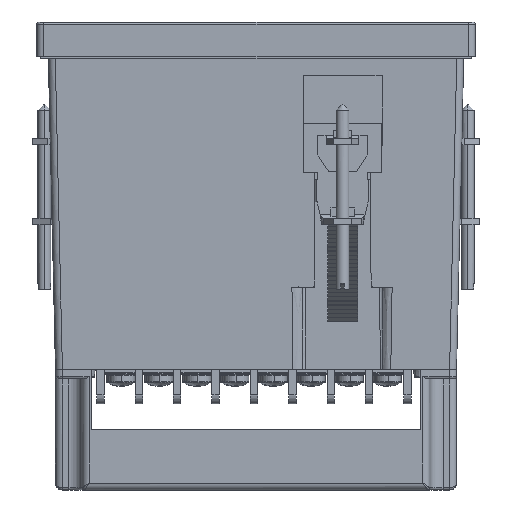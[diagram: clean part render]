
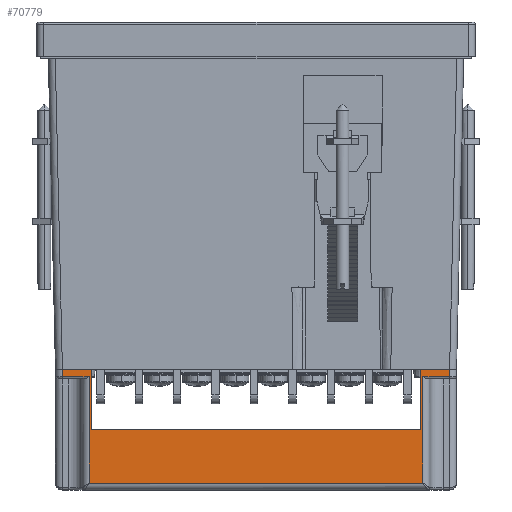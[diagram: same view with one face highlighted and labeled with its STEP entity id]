
A CAD part, front view. The second image highlights one B-rep face of the part: STEP entity #70779.
In plain terms, the highlighted planar face has unit normal (0, -1, 0).
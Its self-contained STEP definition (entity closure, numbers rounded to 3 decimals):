
#3906 = LINE ( 'NONE', #78350, #26117 ) ;
#4967 = VERTEX_POINT ( 'NONE', #93657 ) ;
#5563 = PLANE ( 'NONE',  #76974 ) ;
#5997 = ORIENTED_EDGE ( 'NONE', *, *, #96508, .F. ) ;
#6432 = EDGE_LOOP ( 'NONE', ( #65651, #13958, #8457, #5997, #59889, #43335, #80713, #32470, #53765, #30663, #32777, #38738 ) ) ;
#6841 = DIRECTION ( 'NONE',  ( 1., 0., 0. ) ) ;
#7033 = CARTESIAN_POINT ( 'NONE',  ( -36.15, -43.45, -26.2 ) ) ;
#7709 = CARTESIAN_POINT ( 'NONE',  ( -35.75, -43.45, -13.02 ) ) ;
#8288 = LINE ( 'NONE', #17034, #50861 ) ;
#8457 = ORIENTED_EDGE ( 'NONE', *, *, #73602, .T. ) ;
#9831 = VERTEX_POINT ( 'NONE', #16941 ) ;
#11998 = CARTESIAN_POINT ( 'NONE',  ( -43.45, -43.45, 0. ) ) ;
#12074 = DIRECTION ( 'NONE',  ( 0., 0., 1. ) ) ;
#13344 = EDGE_CURVE ( 'NONE', #30185, #9831, #91136, .T. ) ;
#13958 = ORIENTED_EDGE ( 'NONE', *, *, #13344, .T. ) ;
#14467 = CARTESIAN_POINT ( 'NONE',  ( 35.75, -43.45, -13.02 ) ) ;
#15778 = EDGE_CURVE ( 'NONE', #48974, #68038, #106248, .T. ) ;
#16941 = CARTESIAN_POINT ( 'NONE',  ( 41.95, -43.45, -1.64 ) ) ;
#17034 = CARTESIAN_POINT ( 'NONE',  ( -43.45, -43.45, -1.64 ) ) ;
#22521 = DIRECTION ( 'NONE',  ( 0., 0., -1. ) ) ;
#22651 = LINE ( 'NONE', #14467, #62994 ) ;
#22654 = VECTOR ( 'NONE', #72525, 1000. ) ;
#23580 = DIRECTION ( 'NONE',  ( 0., 0., 1. ) ) ;
#24331 = DIRECTION ( 'NONE',  ( 1., 0., 0. ) ) ;
#24547 = VERTEX_POINT ( 'NONE', #81080 ) ;
#26117 = VECTOR ( 'NONE', #60264, 1000. ) ;
#26307 = DIRECTION ( 'NONE',  ( 0., 0., 1. ) ) ;
#27737 = EDGE_CURVE ( 'NONE', #4967, #30185, #61271, .T. ) ;
#27783 = VECTOR ( 'NONE', #6841, 1000. ) ;
#30185 = VERTEX_POINT ( 'NONE', #59663 ) ;
#30663 = ORIENTED_EDGE ( 'NONE', *, *, #50111, .T. ) ;
#32470 = ORIENTED_EDGE ( 'NONE', *, *, #94733, .F. ) ;
#32518 = CARTESIAN_POINT ( 'NONE',  ( -43.45, -43.45, 0. ) ) ;
#32777 = ORIENTED_EDGE ( 'NONE', *, *, #68590, .T. ) ;
#36346 = EDGE_CURVE ( 'NONE', #24547, #48974, #95293, .T. ) ;
#37912 = CARTESIAN_POINT ( 'NONE',  ( -41.95, -43.45, -1.64 ) ) ;
#38738 = ORIENTED_EDGE ( 'NONE', *, *, #93814, .T. ) ;
#39670 = CARTESIAN_POINT ( 'NONE',  ( -43.45, -43.45, -24.7 ) ) ;
#41849 = VECTOR ( 'NONE', #12074, 1000. ) ;
#43335 = ORIENTED_EDGE ( 'NONE', *, *, #36346, .T. ) ;
#45550 = DIRECTION ( 'NONE',  ( 0., -1., 0. ) ) ;
#46764 = VERTEX_POINT ( 'NONE', #79766 ) ;
#48084 = DIRECTION ( 'NONE',  ( 0., 0., -1. ) ) ;
#48164 = EDGE_CURVE ( 'NONE', #24547, #46764, #22651, .T. ) ;
#48444 = LINE ( 'NONE', #32518, #91504 ) ;
#48974 = VERTEX_POINT ( 'NONE', #90563 ) ;
#50111 = EDGE_CURVE ( 'NONE', #81951, #54836, #8288, .T. ) ;
#50861 = VECTOR ( 'NONE', #67347, 1000. ) ;
#52097 = VECTOR ( 'NONE', #87102, 1000. ) ;
#53692 = CARTESIAN_POINT ( 'NONE',  ( -35.524, -43.45, -13.02 ) ) ;
#53765 = ORIENTED_EDGE ( 'NONE', *, *, #108224, .T. ) ;
#54836 = VERTEX_POINT ( 'NONE', #59855 ) ;
#55770 = VERTEX_POINT ( 'NONE', #103381 ) ;
#58060 = VERTEX_POINT ( 'NONE', #77222 ) ;
#59509 = VECTOR ( 'NONE', #26307, 1000. ) ;
#59663 = CARTESIAN_POINT ( 'NONE',  ( 36.154, -43.45, -1.64 ) ) ;
#59855 = CARTESIAN_POINT ( 'NONE',  ( -36.15, -43.45, -1.64 ) ) ;
#59889 = ORIENTED_EDGE ( 'NONE', *, *, #48164, .F. ) ;
#60264 = DIRECTION ( 'NONE',  ( 0., 0., -1. ) ) ;
#61271 = LINE ( 'NONE', #61816, #41849 ) ;
#61816 = CARTESIAN_POINT ( 'NONE',  ( 36.154, -43.45, -2.14 ) ) ;
#62994 = VECTOR ( 'NONE', #73015, 1000. ) ;
#64830 = LINE ( 'NONE', #39670, #27783 ) ;
#64910 = VECTOR ( 'NONE', #23580, 1000. ) ;
#65651 = ORIENTED_EDGE ( 'NONE', *, *, #27737, .T. ) ;
#67347 = DIRECTION ( 'NONE',  ( 1., 0., 0. ) ) ;
#68038 = VERTEX_POINT ( 'NONE', #90904 ) ;
#68590 = EDGE_CURVE ( 'NONE', #54836, #78244, #72149, .T. ) ;
#70779 = ADVANCED_FACE ( 'NONE', ( #78933 ), #5563, .T. ) ;
#71584 = LINE ( 'NONE', #11998, #100465 ) ;
#72149 = LINE ( 'NONE', #7033, #83795 ) ;
#72525 = DIRECTION ( 'NONE',  ( 1., 0., 0. ) ) ;
#73015 = DIRECTION ( 'NONE',  ( 0., 0., 1. ) ) ;
#73602 = EDGE_CURVE ( 'NONE', #9831, #55770, #99704, .T. ) ;
#76974 = AXIS2_PLACEMENT_3D ( 'NONE', #95900, #45550, #22521 ) ;
#77222 = CARTESIAN_POINT ( 'NONE',  ( -41.95, -43.45, 0. ) ) ;
#78244 = VERTEX_POINT ( 'NONE', #105177 ) ;
#78350 = CARTESIAN_POINT ( 'NONE',  ( -41.95, -43.45, -26.2 ) ) ;
#78738 = DIRECTION ( 'NONE',  ( 1., 0., 0. ) ) ;
#78933 = FACE_OUTER_BOUND ( 'NONE', #6432, .T. ) ;
#79766 = CARTESIAN_POINT ( 'NONE',  ( 35.75, -43.45, 0. ) ) ;
#80713 = ORIENTED_EDGE ( 'NONE', *, *, #15778, .T. ) ;
#81080 = CARTESIAN_POINT ( 'NONE',  ( 35.75, -43.45, -13.02 ) ) ;
#81951 = VERTEX_POINT ( 'NONE', #37912 ) ;
#83795 = VECTOR ( 'NONE', #48084, 1000. ) ;
#87102 = DIRECTION ( 'NONE',  ( -1., 0., 0. ) ) ;
#90563 = CARTESIAN_POINT ( 'NONE',  ( -35.75, -43.45, -13.02 ) ) ;
#90904 = CARTESIAN_POINT ( 'NONE',  ( -35.75, -43.45, 0. ) ) ;
#91136 = LINE ( 'NONE', #108105, #22654 ) ;
#91504 = VECTOR ( 'NONE', #24331, 1000. ) ;
#93657 = CARTESIAN_POINT ( 'NONE',  ( 36.154, -43.45, -24.7 ) ) ;
#93814 = EDGE_CURVE ( 'NONE', #78244, #4967, #64830, .T. ) ;
#94733 = EDGE_CURVE ( 'NONE', #58060, #68038, #48444, .T. ) ;
#95293 = LINE ( 'NONE', #53692, #52097 ) ;
#95900 = CARTESIAN_POINT ( 'NONE',  ( -43.45, -43.45, -26.2 ) ) ;
#96508 = EDGE_CURVE ( 'NONE', #46764, #55770, #71584, .T. ) ;
#99704 = LINE ( 'NONE', #101299, #59509 ) ;
#100465 = VECTOR ( 'NONE', #78738, 1000. ) ;
#101299 = CARTESIAN_POINT ( 'NONE',  ( 41.95, -43.45, -26.2 ) ) ;
#103381 = CARTESIAN_POINT ( 'NONE',  ( 41.95, -43.45, 0. ) ) ;
#105177 = CARTESIAN_POINT ( 'NONE',  ( -36.15, -43.45, -24.7 ) ) ;
#106248 = LINE ( 'NONE', #7709, #64910 ) ;
#108105 = CARTESIAN_POINT ( 'NONE',  ( -43.45, -43.45, -1.64 ) ) ;
#108224 = EDGE_CURVE ( 'NONE', #58060, #81951, #3906, .T. ) ;
